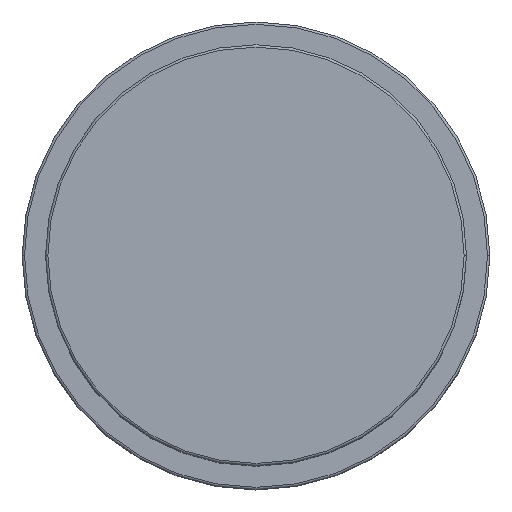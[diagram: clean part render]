
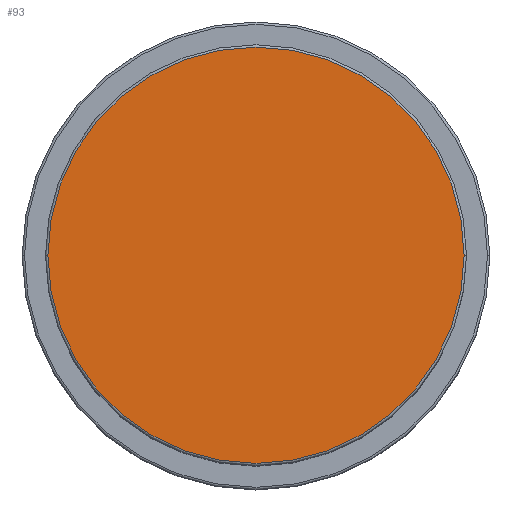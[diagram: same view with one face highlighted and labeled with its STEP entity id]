
A CAD part, top view. The second image highlights one B-rep face of the part: STEP entity #93.
In plain terms, the highlighted planar face has unit normal (0, 0, 1).
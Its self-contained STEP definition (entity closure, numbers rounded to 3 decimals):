
#44 = VERTEX_POINT ( 'NONE', #778 ) ;
#93 = ADVANCED_FACE ( 'NONE', ( #130 ), #1579, .T. ) ;
#130 = FACE_OUTER_BOUND ( 'NONE', #439, .T. ) ;
#162 = AXIS2_PLACEMENT_3D ( 'NONE', #653, #1127, #187 ) ;
#187 = DIRECTION ( 'NONE',  ( 1., 0., 0. ) ) ;
#346 = CIRCLE ( 'NONE', #1881, 44.5 ) ;
#439 = EDGE_LOOP ( 'NONE', ( #1991, #820 ) ) ;
#512 = DIRECTION ( 'NONE',  ( 1., 0., 0. ) ) ;
#547 = EDGE_CURVE ( 'NONE', #44, #1906, #1268, .T. ) ;
#653 = CARTESIAN_POINT ( 'NONE',  ( 0., 0., 92. ) ) ;
#778 = CARTESIAN_POINT ( 'NONE',  ( 44.5, 0., 92. ) ) ;
#820 = ORIENTED_EDGE ( 'NONE', *, *, #1835, .T. ) ;
#967 = DIRECTION ( 'NONE',  ( 0., 0., 1. ) ) ;
#1031 = DIRECTION ( 'NONE',  ( 1., 0., 0. ) ) ;
#1127 = DIRECTION ( 'NONE',  ( 0., 0., 1. ) ) ;
#1241 = AXIS2_PLACEMENT_3D ( 'NONE', #1597, #967, #512 ) ;
#1268 = CIRCLE ( 'NONE', #1241, 44.5 ) ;
#1579 = PLANE ( 'NONE',  #162 ) ;
#1597 = CARTESIAN_POINT ( 'NONE',  ( 0., 0., 92. ) ) ;
#1653 = CARTESIAN_POINT ( 'NONE',  ( 0., 0., 92. ) ) ;
#1791 = CARTESIAN_POINT ( 'NONE',  ( -44.5, 0., 92. ) ) ;
#1818 = DIRECTION ( 'NONE',  ( 0., 0., 1. ) ) ;
#1835 = EDGE_CURVE ( 'NONE', #1906, #44, #346, .T. ) ;
#1881 = AXIS2_PLACEMENT_3D ( 'NONE', #1653, #1818, #1031 ) ;
#1906 = VERTEX_POINT ( 'NONE', #1791 ) ;
#1991 = ORIENTED_EDGE ( 'NONE', *, *, #547, .T. ) ;
